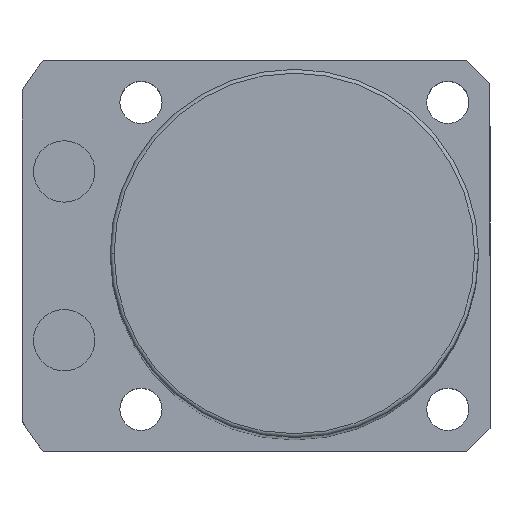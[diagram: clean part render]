
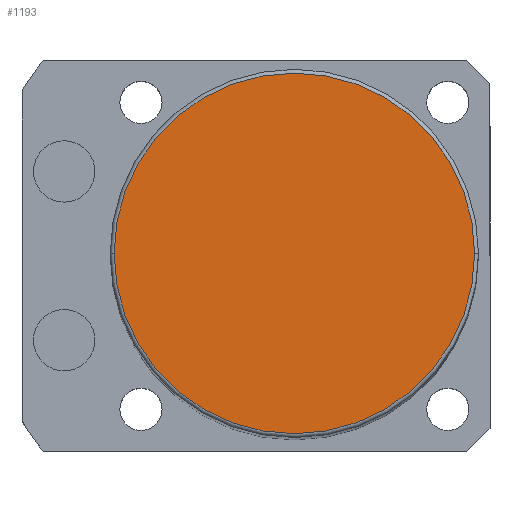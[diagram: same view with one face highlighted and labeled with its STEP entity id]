
A CAD part, top view. The second image highlights one B-rep face of the part: STEP entity #1193.
In plain terms, the highlighted planar face has unit normal (0, 0, 1).
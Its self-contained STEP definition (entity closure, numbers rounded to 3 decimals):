
#44 = AXIS2_PLACEMENT_3D ( 'NONE', #1702, #727, #1923 ) ;
#129 = CIRCLE ( 'NONE', #1841, 23.5 ) ;
#187 = EDGE_LOOP ( 'NONE', ( #1076, #1546 ) ) ;
#251 = CARTESIAN_POINT ( 'NONE',  ( -23.5, 0., 191. ) ) ;
#314 = FACE_OUTER_BOUND ( 'NONE', #187, .T. ) ;
#363 = DIRECTION ( 'NONE',  ( 0., 0., 1. ) ) ;
#370 = CARTESIAN_POINT ( 'NONE',  ( 0., 0., 191. ) ) ;
#429 = CARTESIAN_POINT ( 'NONE',  ( 23.5, 0., 191. ) ) ;
#614 = EDGE_CURVE ( 'NONE', #2253, #956, #2364, .T. ) ;
#646 = DIRECTION ( 'NONE',  ( 0., 0., 1. ) ) ;
#727 = DIRECTION ( 'NONE',  ( 0., 0., 1. ) ) ;
#793 = AXIS2_PLACEMENT_3D ( 'NONE', #370, #363, #1734 ) ;
#956 = VERTEX_POINT ( 'NONE', #429 ) ;
#1076 = ORIENTED_EDGE ( 'NONE', *, *, #1874, .T. ) ;
#1193 = ADVANCED_FACE ( 'NONE', ( #314 ), #1902, .T. ) ;
#1429 = CARTESIAN_POINT ( 'NONE',  ( 0., 0., 191. ) ) ;
#1546 = ORIENTED_EDGE ( 'NONE', *, *, #614, .T. ) ;
#1702 = CARTESIAN_POINT ( 'NONE',  ( 0., 0., 191. ) ) ;
#1734 = DIRECTION ( 'NONE',  ( 1., 0., 0. ) ) ;
#1841 = AXIS2_PLACEMENT_3D ( 'NONE', #1429, #646, #2027 ) ;
#1874 = EDGE_CURVE ( 'NONE', #956, #2253, #129, .T. ) ;
#1902 = PLANE ( 'NONE',  #44 ) ;
#1923 = DIRECTION ( 'NONE',  ( 1., 0., 0. ) ) ;
#2027 = DIRECTION ( 'NONE',  ( 1., 0., 0. ) ) ;
#2253 = VERTEX_POINT ( 'NONE', #251 ) ;
#2364 = CIRCLE ( 'NONE', #793, 23.5 ) ;
